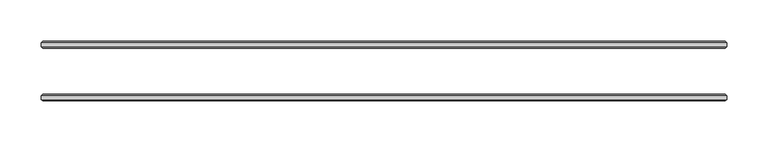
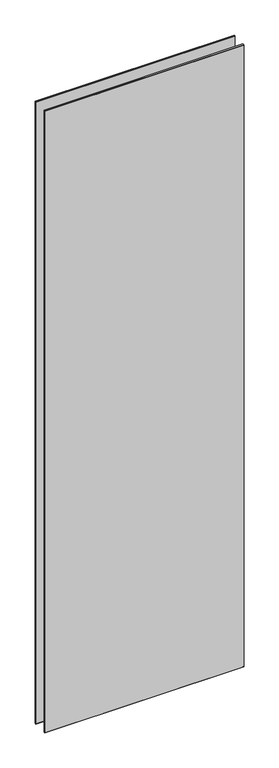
"""IFC4 building model written with IfcOpenShell, lengths in millimetres: plate geometry, 3-AMG-2-Панель двойной витраж 8, 10 : Смещение 32 Толщина 8mm."""

from ifc_helpers import new_model, si_unit, origin, place, context, project, spatial, faceted_brep, source, transform, mapped, element, save


def plate_5e282792(model_context):
    return source(origin(), model_context, "Body", "Brep", [
        faceted_brep([(413.9, -34.4961653, 2722.8), (413.9, -29.5038347, 2722.8), (-413.9, -29.5038347, 2722.8), (-413.9, -34.4961653, 2722.8), (413.9, -29.5038347, -7.0), (413.9, -34.4961653, -7.0), (-413.9, -34.4961653, -7.0), (-413.9, -29.5038347, -7.0), (-412.3961653, -28.0, 2721.2961653), (412.3961653, -28.0, 2721.2961653), (412.3961653, -28.0, -5.5039422), (-412.3961653, -28.0, -5.5039422), (412.3961653, -36.0, 2721.2961653), (-412.3961653, -36.0, 2721.2961653), (-412.3961653, -36.0, -5.4961653), (412.3961653, -36.0, -5.4961653)], [[[0, 1, 2, 3]], [[4, 5, 6, 7]], [[8, 9, 10, 11]], [[3, 2, 7, 6]], [[12, 13, 14, 15]], [[1, 0, 5, 4]], [[1, 4, 10, 9]], [[5, 0, 12, 15]], [[0, 3, 13, 12]], [[2, 1, 9, 8]], [[7, 2, 8, 11]], [[3, 6, 14, 13]], [[6, 5, 15, 14]], [[4, 7, 11, 10]]]),
        faceted_brep([(413.9, 29.5038347, 2722.8), (413.9, 34.4961653, 2722.8), (-413.9, 34.4961653, 2722.8), (-413.9, 29.5038347, 2722.8), (413.9, 34.4961653, -7.0), (413.9, 29.5038347, -7.0), (-413.9, 29.5038347, -7.0), (-413.9, 34.4961653, -7.0), (-412.3961653, 36.0, 2721.2961653), (412.3961653, 36.0, 2721.2961653), (412.3961653, 36.0, -5.5039422), (-412.3961653, 36.0, -5.5039422), (412.3961653, 28.0, 2721.2961653), (-412.3961653, 28.0, 2721.2961653), (-412.3961653, 28.0, -5.4961653), (412.3961653, 28.0, -5.4961653)], [[[0, 1, 2, 3]], [[4, 5, 6, 7]], [[8, 9, 10, 11]], [[3, 2, 7, 6]], [[12, 13, 14, 15]], [[1, 0, 5, 4]], [[1, 4, 10, 9]], [[5, 0, 12, 15]], [[7, 2, 8, 11]], [[3, 6, 14, 13]], [[0, 3, 13, 12]], [[2, 1, 9, 8]], [[6, 5, 15, 14]], [[4, 7, 11, 10]]]),
    ])


if __name__ == "__main__":
    model = new_model("IFC4")
    model_context = context("Model", 3, world=origin())
    ifc_project = project(units=[si_unit("LENGTHUNIT", "METRE", prefix="MILLI")], contexts=[model_context])
    site = spatial("IfcSite", under=ifc_project)
    building = spatial("IfcBuilding", under=site)
    placement = place(None, origin())
    plate_shape = plate_5e282792(model_context)
    element("IfcPlate", 1, ObjectType="3-AMG-2-Панель двойной витраж 8, 10 : Смещение 32 Толщина 8mm", at=placement, inside=building, context=model_context, shape_type="MappedRepresentation", body=[
        mapped(plate_shape, transform((0.0, 0.0, 0.0), x_axis=(1.0, 0.0, 0.0), y_axis=(0.0, 1.0, 0.0), z_axis=(0.0, 0.0, 1.0))),
    ])
    save(model, "model.ifc")
